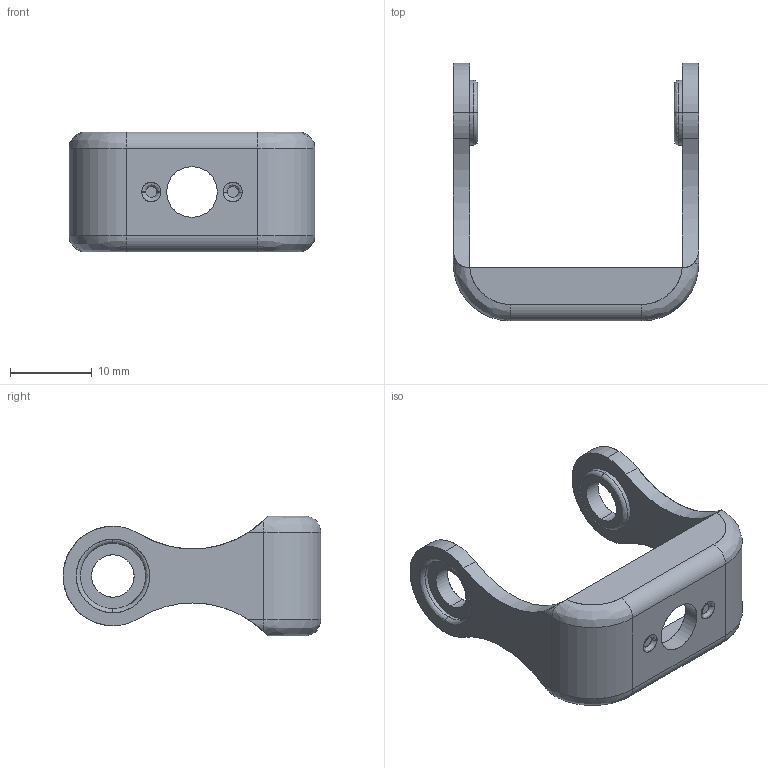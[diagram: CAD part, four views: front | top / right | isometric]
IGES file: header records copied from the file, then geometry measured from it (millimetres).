
Start section: SolidWorks IGES FILE using analytic representation for surfaces
Global section: file name: C:\Documents and Settings\lecoutey\Bureau\GR 57 E\57.070.10.IGS; native system: SolidWorks 2004 by SolidWorks Corporation; preprocessor: Version 5.3; author: lecoutey; date: 050330.132802; units: millimetre
Bounding box: 30.1 x 31.6 x 14.7 mm (x, y, z)
Surface area: 2679.7 mm2 (no closed solid volume)
Topology: 0 solids, 0 shells, 70 faces, 1056 edges, 1056 vertices
Faces by surface type: revolution 36, bspline 34
